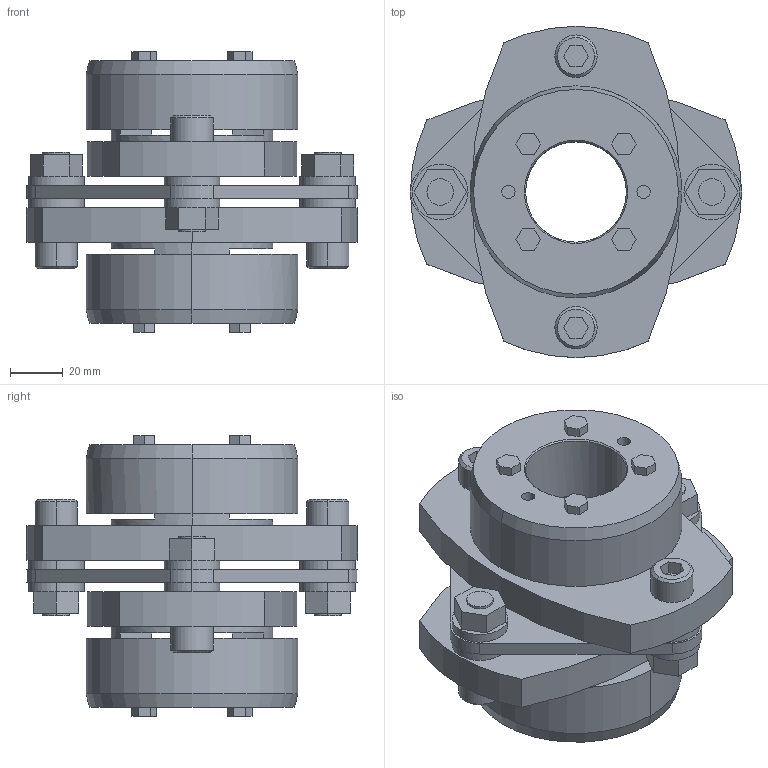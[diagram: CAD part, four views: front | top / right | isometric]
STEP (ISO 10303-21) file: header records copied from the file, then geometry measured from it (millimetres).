
FILE_DESCRIPTION((''),'2;1');
FILE_NAME('LCS-125T7-38×38.stp','2011-09-07T09:58:49',(''),(''),'AutoCAD STEP 2000i','AutoCAD 2000i',', , ');
FILE_SCHEMA(('CONFIG_CONTROL_DESIGN'));
Length unit declared in the file: millimetre
Products named in the file (8): LCS-125T7-38×38; 忣兜1; LC125T7-T038-1; LC125T7-T038; LC125T7-T035; LC125T7-T032-1; LC125T7-T032; LCS125-ITA
Assembly tree (7 placements, depth 2):
  LCS-125T7-38×38
    忣兜1
    LC125T7-T038-1
    LC125T7-T038
    LC125T7-T035
    LC125T7-T032-1
    LC125T7-T032
    LCS125-ITA
Bounding box: 125 x 125 x 106 mm (x, y, z)
Volume: 462457 mm3; surface area: 96094.9 mm2
Topology: 1 solids, 1 shells, 246 faces, 606 edges, 398 vertices
Faces by surface type: plane 146, cylinder 80, cone 20
Entity records: 7513 total; most frequent: DIRECTION 1312, CARTESIAN_POINT 1258, ORIENTED_EDGE 1212, EDGE_CURVE 606, AXIS2_PLACEMENT_3D 452, VECTOR 408, LINE 408, VERTEX_POINT 398
